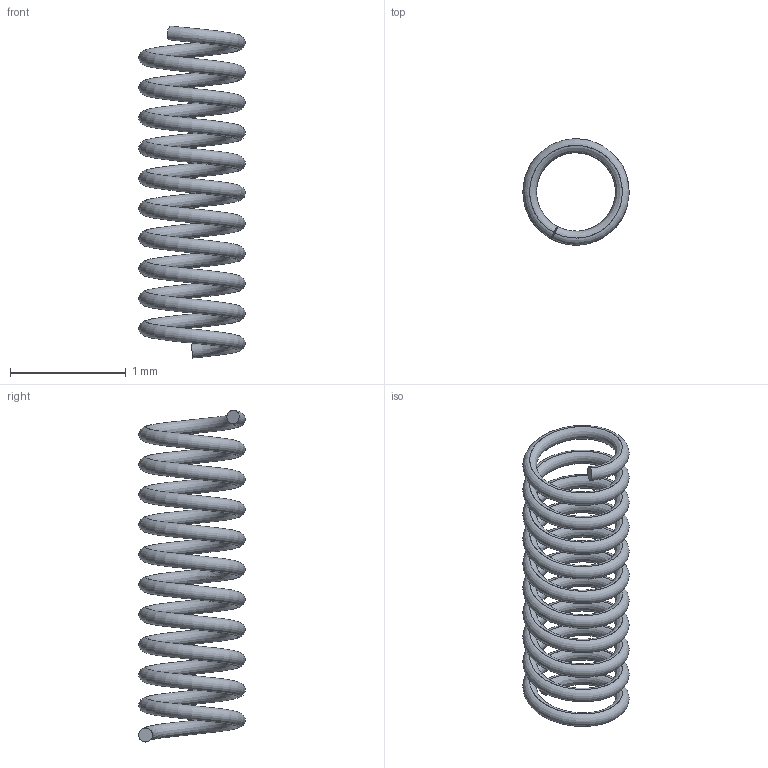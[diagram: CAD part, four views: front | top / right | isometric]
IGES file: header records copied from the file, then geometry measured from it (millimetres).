
Start section:  PTC IGES file: spring__w___any_prt.igs
Global section: file name: spring__w___any_prt.igs; native system: Pro/ENGINEER by Parametric Technology Corporation; preprocessor: 2006170; author: GRA; organization: Unknown; date: 20080630.105212; units: millimetre
Bounding box: 0.92 x 0.92 x 2.87 mm (x, y, z)
Surface area: 10.1 mm2 (no closed solid volume)
Topology: 0 solids, 0 shells, 4 faces, 12 edges, 12 vertices
Faces by surface type: bspline 4
